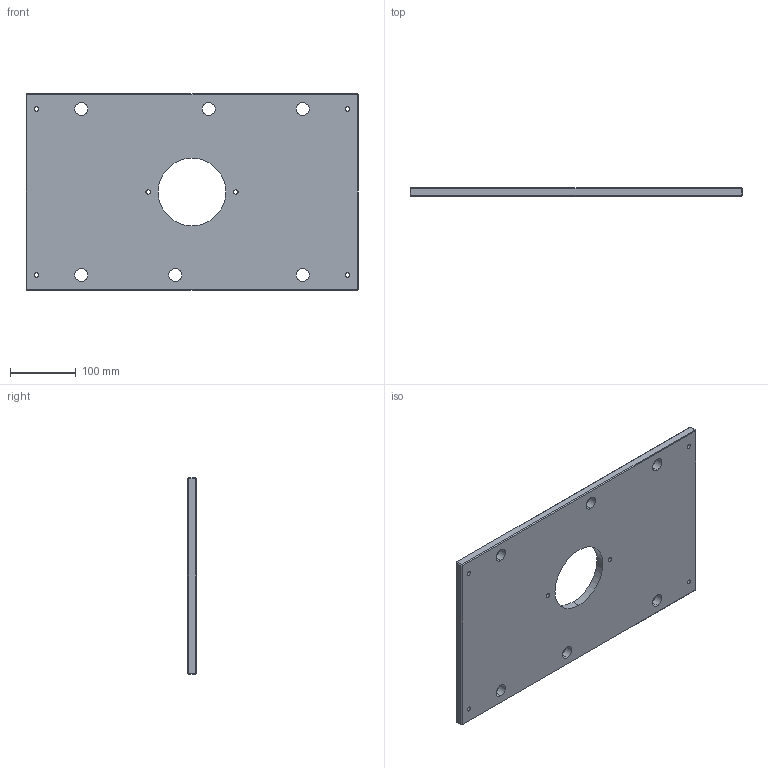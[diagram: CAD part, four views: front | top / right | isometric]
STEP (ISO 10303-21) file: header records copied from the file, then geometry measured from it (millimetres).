
FILE_DESCRIPTION (( 'STEP AP214' ), '1' );
FILE_NAME ('ME-0619-CH-1220-B.STEP', '2020-02-12T12:03:42', ( '' ), ( '' ), 'SwSTEP 2.0', 'SolidWorks 2018', '' );
FILE_SCHEMA (( 'AUTOMOTIVE_DESIGN' ));
Length unit declared in the file: inch
Products named in the file (1): ME-0619-CH-1220-B
Bounding box: 504.82 x 12.7 x 298.45 mm (x, y, z)
Volume: 1777032 mm3; surface area: 308776.1 mm2
Topology: 1 solids, 1 shells, 64 faces, 150 edges, 88 vertices
Faces by surface type: cylinder 26, plane 26, cone 12
Entity records: 1902 total; most frequent: DIRECTION 344, CARTESIAN_POINT 303, ORIENTED_EDGE 300, EDGE_CURVE 150, AXIS2_PLACEMENT_3D 129, EDGE_LOOP 90, VERTEX_POINT 88, LINE 86
